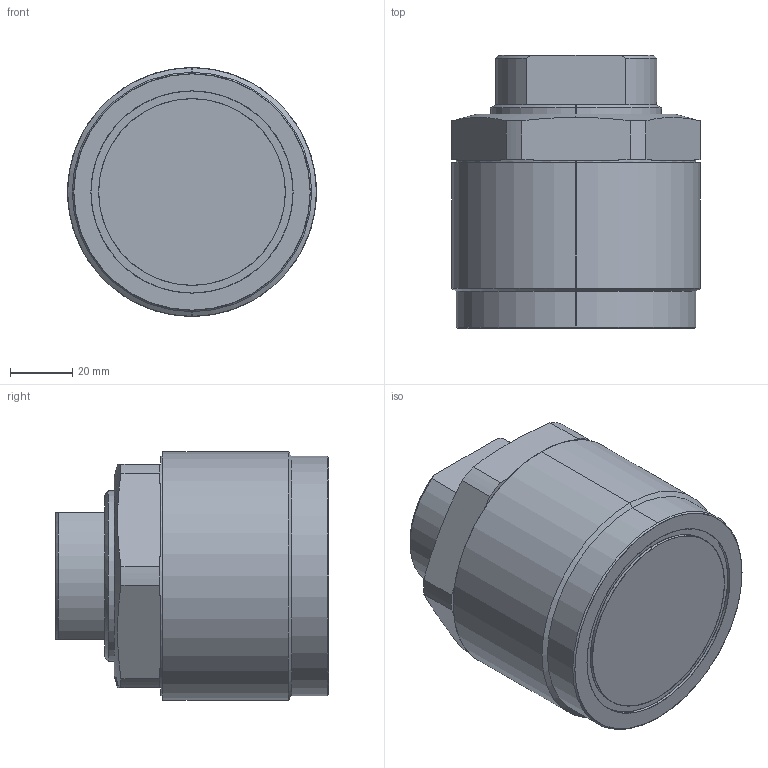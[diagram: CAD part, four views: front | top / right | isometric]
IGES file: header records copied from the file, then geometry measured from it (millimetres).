
Start section: SolidWorks IGES file using analytic representation for surfaces
Global section: file name: D:\karuppas\Clasp\3D model\Thread body cylinder\T03C-M808-S threaded pusher\T03C-M608-S threaded pusher..IGS; native system: SolidWorks 2017; preprocessor: SolidWorks 2017; author: pc; date: 220709.231906; units: millimetre
Bounding box: 80 x 88 x 80 mm (x, y, z)
Surface area: 46404.7 mm2 (no closed solid volume)
Topology: 0 solids, 0 shells, 272 faces, 4510 edges, 4508 vertices
Faces by surface type: bspline 232, revolution 40
